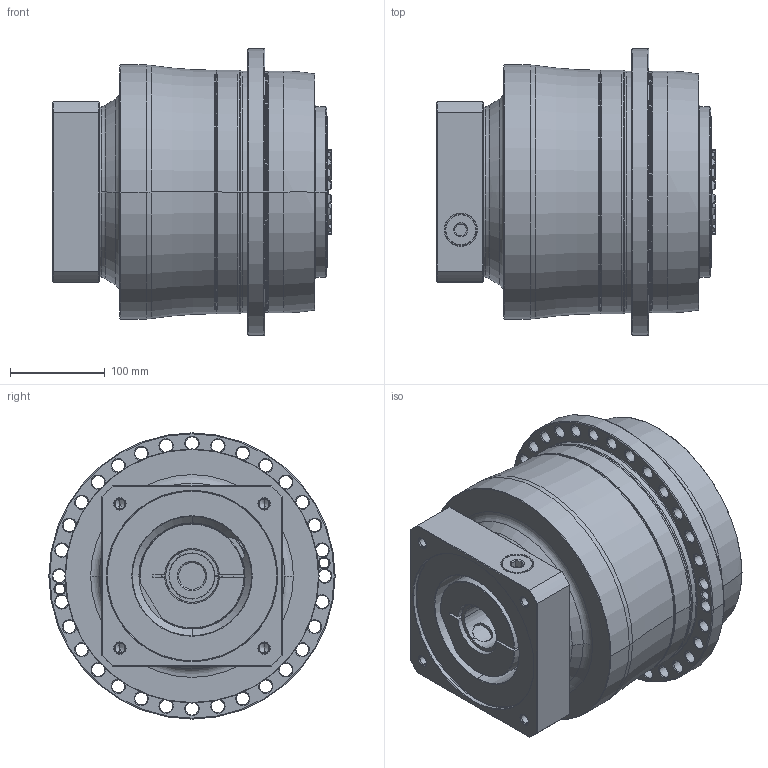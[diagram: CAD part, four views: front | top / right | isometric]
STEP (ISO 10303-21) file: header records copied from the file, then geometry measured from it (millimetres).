
FILE_DESCRIPTION((''),'2;1');
FILE_NAME('APC255_2ST_48-P0409B10201_ASM','2018-06-29T',('d01226'),(''),'PRO/ENGINEER BY PARAMETRIC TECHNOLOGY CORPORATION, 2008410','PRO/ENGINEER BY PARAMETRIC TECHNOLOGY CORPORATION, 2008410','');
FILE_SCHEMA(('CONFIG_CONTROL_DESIGN'));
Length unit declared in the file: millimetre
Products named in the file (9): P0278701003; P0359770103; P1317710401; P0503B00016; P0912654001; P1211700001; P0409B10201; 21711426021; APC255_2ST_48-P0409B10201_ASM
Assembly tree (8 placements, depth 2):
  APC255_2ST_48-P0409B10201_ASM
    P0278701003
    P0359770103
    P1317710401
    P0503B00016
    P0912654001
    P1211700001
    P0409B10201
    21711426021
Bounding box: 294.1 x 302 x 302 mm (x, y, z)
Volume: 12066929.9 mm3; surface area: 853832.4 mm2
Topology: 9 solids, 21 shells, 767 faces, 1889 edges, 1153 vertices
Faces by surface type: cone 270, cylinder 237, plane 130, torus 114, bspline 16
Entity records: 28432 total; most frequent: CARTESIAN_POINT 9814, DIRECTION 4163, ORIENTED_EDGE 3692, EDGE_CURVE 1871, AXIS2_PLACEMENT_3D 1812, VERTEX_POINT 1153, CIRCLE 1032, EDGE_LOOP 882
